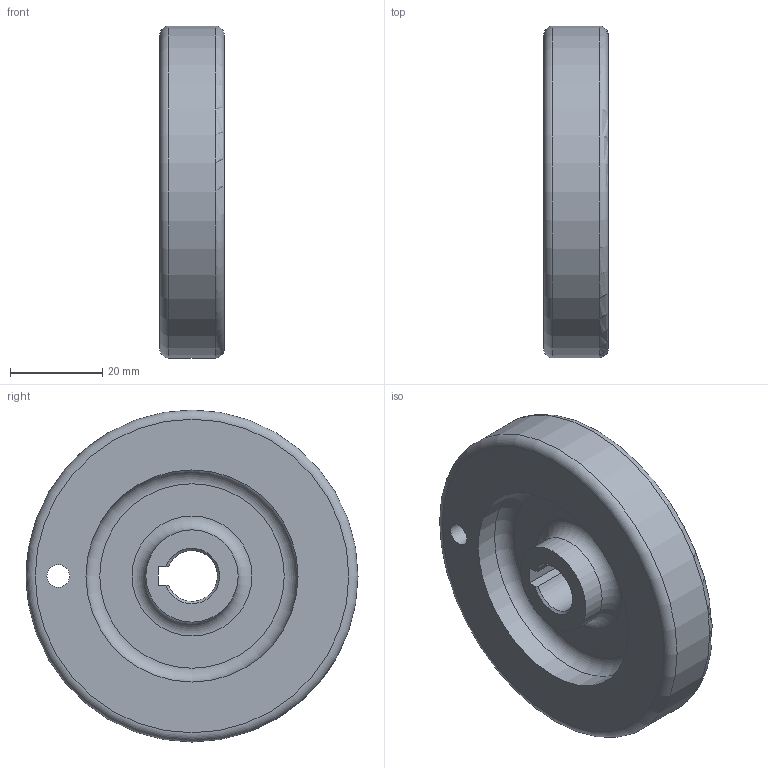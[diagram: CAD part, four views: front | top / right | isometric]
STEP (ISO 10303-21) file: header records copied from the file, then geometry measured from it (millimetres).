
FILE_DESCRIPTION(/* description */ (''),/* implementation_level */ '2;1');
FILE_NAME(/* name */ '',/* time_stamp */ '2024-04-09T15:32:08+09:00',/* author */ ('jhkim'),/* organization */ (''),/* preprocessor_version */ 'ST-DEVELOPER v20',/* originating_system */ 'Autodesk Inventor 2025',/* authorisation */ '');
FILE_SCHEMA (('AUTOMOTIVE_DESIGN { 1 0 10303 214 3 1 1 }'));
Length unit declared in the file: millimetre
Products named in the file (1): 돌림판
Bounding box: 14 x 72 x 72 mm (x, y, z)
Volume: 43917.3 mm3; surface area: 12908.3 mm2
Topology: 1 solids, 1 shells, 21 faces, 48 edges, 32 vertices
Faces by surface type: plane 9, cylinder 7, torus 4, cone 1
Full cylindrical faces by diameter (mm): 4.917 x1, 12 x1, 20 x2, 46 x1, 72 x1
Entity records: 671 total; most frequent: CARTESIAN_POINT 119, DIRECTION 118, ORIENTED_EDGE 96, AXIS2_PLACEMENT_3D 51, EDGE_CURVE 48, VERTEX_POINT 32, CIRCLE 29, EDGE_LOOP 28
